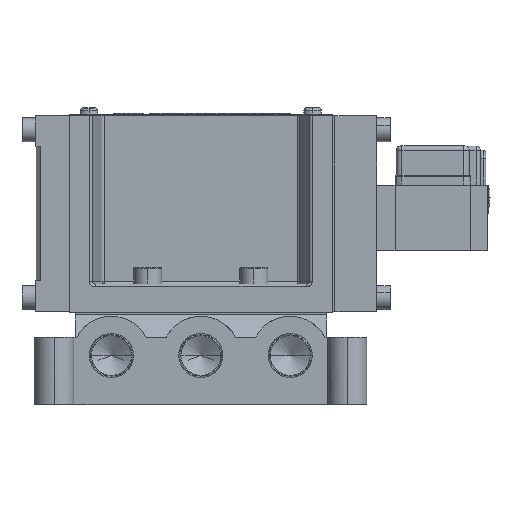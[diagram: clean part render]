
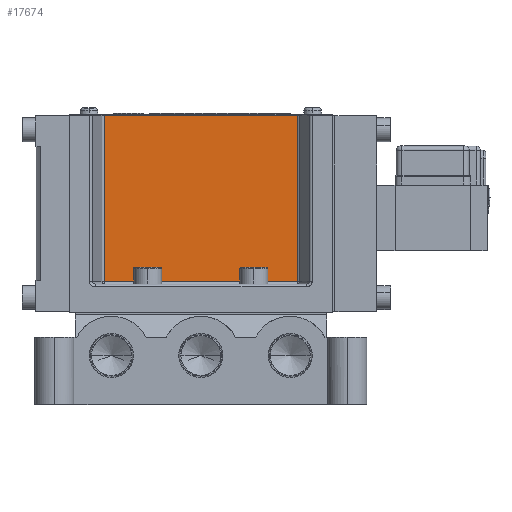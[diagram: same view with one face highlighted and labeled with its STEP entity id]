
A CAD part, top view. The second image highlights one B-rep face of the part: STEP entity #17674.
In plain terms, the highlighted planar face has unit normal (0, 0, 1).
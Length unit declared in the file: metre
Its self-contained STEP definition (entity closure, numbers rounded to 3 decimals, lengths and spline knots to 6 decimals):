
#465 = CARTESIAN_POINT ( 'NONE',  ( -0.03448, 0.04175, 0.01815 ) ) ;
#915 = FACE_OUTER_BOUND ( 'NONE', #19413, .T. ) ;
#2616 = VERTEX_POINT ( 'NONE', #19581 ) ;
#3969 = LINE ( 'NONE', #13646, #12513 ) ;
#4312 = DIRECTION ( 'NONE',  ( -1., 0., 0. ) ) ;
#4385 = DIRECTION ( 'NONE',  ( 0., 0., -1. ) ) ;
#4523 = CARTESIAN_POINT ( 'NONE',  ( 0.03448, 0.012, 0.01815 ) ) ;
#4594 = PLANE ( 'NONE',  #11815 ) ;
#5190 = VERTEX_POINT ( 'NONE', #11898 ) ;
#5349 = LINE ( 'NONE', #21438, #21624 ) ;
#6278 = VERTEX_POINT ( 'NONE', #19737 ) ;
#7774 = LINE ( 'NONE', #465, #20637 ) ;
#8298 = VECTOR ( 'NONE', #21215, 1. ) ;
#8361 = ORIENTED_EDGE ( 'NONE', *, *, #12350, .F. ) ;
#8585 = DIRECTION ( 'NONE',  ( 0., 1., 0. ) ) ;
#11815 = AXIS2_PLACEMENT_3D ( 'NONE', #4523, #4385, #4312 ) ;
#11898 = CARTESIAN_POINT ( 'NONE',  ( 0.03448, 0.012, 0.01815 ) ) ;
#12202 = VERTEX_POINT ( 'NONE', #14350 ) ;
#12312 = EDGE_CURVE ( 'NONE', #2616, #5190, #5349, .T. ) ;
#12319 = EDGE_CURVE ( 'NONE', #5190, #6278, #13891, .T. ) ;
#12350 = EDGE_CURVE ( 'NONE', #6278, #12202, #7774, .T. ) ;
#12513 = VECTOR ( 'NONE', #13581, 1. ) ;
#13581 = DIRECTION ( 'NONE',  ( -1., 0., 0. ) ) ;
#13646 = CARTESIAN_POINT ( 'NONE',  ( 0., 0.0715, 0.01815 ) ) ;
#13674 = EDGE_CURVE ( 'NONE', #2616, #12202, #3969, .T. ) ;
#13891 = LINE ( 'NONE', #21576, #8298 ) ;
#14350 = CARTESIAN_POINT ( 'NONE',  ( -0.03448, 0.0715, 0.01815 ) ) ;
#17674 = ADVANCED_FACE ( 'NONE', ( #915 ), #4594, .F. ) ;
#18877 = ORIENTED_EDGE ( 'NONE', *, *, #13674, .T. ) ;
#19413 = EDGE_LOOP ( 'NONE', ( #21478, #18877, #8361, #21064 ) ) ;
#19581 = CARTESIAN_POINT ( 'NONE',  ( 0.03448, 0.0715, 0.01815 ) ) ;
#19737 = CARTESIAN_POINT ( 'NONE',  ( -0.03448, 0.012, 0.01815 ) ) ;
#20637 = VECTOR ( 'NONE', #8585, 1. ) ;
#21064 = ORIENTED_EDGE ( 'NONE', *, *, #12319, .F. ) ;
#21215 = DIRECTION ( 'NONE',  ( -1., 0., 0. ) ) ;
#21399 = DIRECTION ( 'NONE',  ( 0., -1., 0. ) ) ;
#21438 = CARTESIAN_POINT ( 'NONE',  ( 0.03448, 0.04175, 0.01815 ) ) ;
#21478 = ORIENTED_EDGE ( 'NONE', *, *, #12312, .F. ) ;
#21576 = CARTESIAN_POINT ( 'NONE',  ( 0., 0.012, 0.01815 ) ) ;
#21624 = VECTOR ( 'NONE', #21399, 1. ) ;
